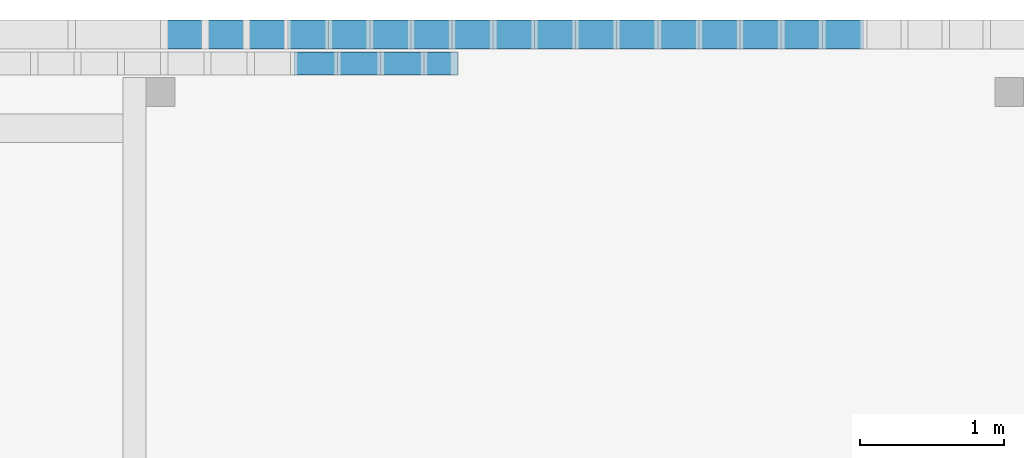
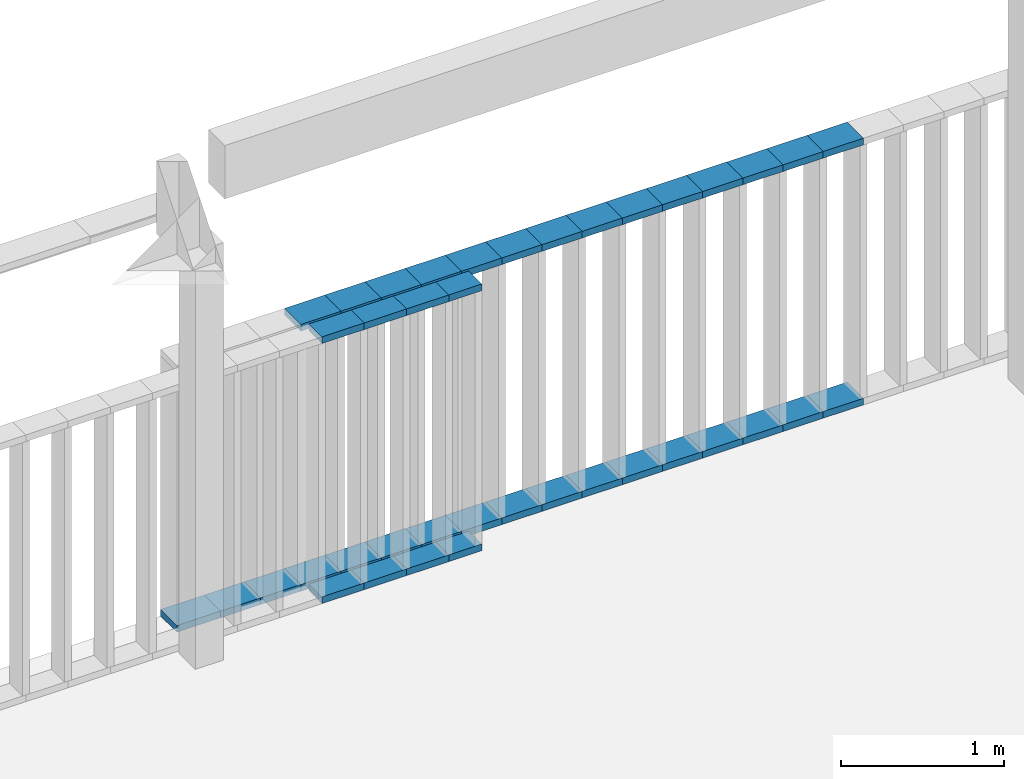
# One storey, part 48 of 240: 39 members, 2 elements without a shape of their own.
"""IFC2X3 building model written with IfcOpenShell, lengths in centimetres."""

from ifc_helpers import new_model, entity, si_unit, converted_unit, derived_unit, direction, frame, origin, origin_2d_with_axis, place, context, subcontext, project, spatial, rectangle, extrude, source, transform, mapped, material, type_object, type_shapes, element, aggregate, save


model = new_model("IFC2X3")

# Units and contexts
model_context = context("Model", 3, precision=0.001, world=origin(), true_north=direction((6.12303176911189e-17, 1.0)))
body_context = subcontext(model_context, "Body", "Model", "MODEL_VIEW")
ifc_project = project(units=[si_unit("LENGTHUNIT", "METRE", prefix="CENTI"), si_unit("AREAUNIT", "SQUARE_METRE"), si_unit("VOLUMEUNIT", "CUBIC_METRE"), converted_unit("PLANEANGLEUNIT", "DEGREE", entity("IfcRatioMeasure", 0.0174532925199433), si_unit("PLANEANGLEUNIT", "RADIAN"), dimensions=[0, 0, 0, 0, 0, 0, 0]), si_unit("MASSUNIT", "GRAM", prefix="KILO"), derived_unit("MASSDENSITYUNIT", [(si_unit("MASSUNIT", "GRAM", prefix="KILO"), 1), (si_unit("LENGTHUNIT", "METRE"), -3)]), si_unit("TIMEUNIT", "SECOND"), si_unit("FREQUENCYUNIT", "HERTZ"), si_unit("THERMODYNAMICTEMPERATUREUNIT", "DEGREE_CELSIUS"), derived_unit("THERMALTRANSMITTANCEUNIT", [(si_unit("MASSUNIT", "GRAM", prefix="KILO"), 1), (si_unit("THERMODYNAMICTEMPERATUREUNIT", "KELVIN"), -1), (si_unit("TIMEUNIT", "SECOND"), -3)]), derived_unit("VOLUMETRICFLOWRATEUNIT", [(si_unit("LENGTHUNIT", "METRE"), 3), (si_unit("TIMEUNIT", "SECOND"), -1)]), si_unit("ELECTRICCURRENTUNIT", "AMPERE"), si_unit("ELECTRICVOLTAGEUNIT", "VOLT"), si_unit("POWERUNIT", "WATT"), si_unit("FORCEUNIT", "NEWTON", prefix="KILO"), si_unit("ILLUMINANCEUNIT", "LUX"), si_unit("LUMINOUSFLUXUNIT", "LUMEN"), si_unit("LUMINOUSINTENSITYUNIT", "CANDELA"), derived_unit("USERDEFINED", [(si_unit("MASSUNIT", "GRAM", prefix="KILO"), -1), (si_unit("LENGTHUNIT", "METRE"), -2), (si_unit("TIMEUNIT", "SECOND"), 3), (si_unit("LUMINOUSFLUXUNIT", "LUMEN"), 1)]), derived_unit("LINEARVELOCITYUNIT", [(si_unit("LENGTHUNIT", "METRE"), 1), (si_unit("TIMEUNIT", "SECOND"), -1)]), si_unit("PRESSUREUNIT", "PASCAL"), derived_unit("USERDEFINED", [(si_unit("LENGTHUNIT", "METRE"), -2), (si_unit("MASSUNIT", "GRAM", prefix="KILO"), 1), (si_unit("TIMEUNIT", "SECOND"), -2)])], contexts=[model_context])

# Site, building, storey
site_placement = place(None, frame((-2781.94577612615, 7442.24238424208, 0.0)))
site = spatial("IfcSite", under=ifc_project, at=site_placement, Name="Default", CompositionType="ELEMENT")
building_placement = place(site_placement, origin())
building = spatial("IfcBuilding", under=site, at=building_placement, CompositionType="ELEMENT")
storey_placement = place(building_placement, origin())
storey = spatial("IfcBuildingStorey", under=building, at=storey_placement, Name="N00 - COO", CompositionType="ELEMENT", Elevation=0.0)

# Curtain wall, members
curtain_wall_type_1 = type_object("IfcCurtainWallType", Name="Mur-rideau:SR-Clôture", PredefinedType="NOTDEFINED")
curtain_wall_1_placement = place(building_placement, origin())
curtain_wall_1 = element("IfcCurtainWall", 1, at=curtain_wall_1_placement, inside=storey, type_object=curtain_wall_type_1, Name="Mur-rideau:SR-Clôture", ObjectType="Mur-rideau:SR-Clôture")
ifc_material = material(Name="Aluminium")
member_type_1 = type_object("IfcMemberType", Name="Epine nord (200x50 mm)", PredefinedType="MEMBER")
shared_shape_1 = source(origin(), body_context, "Body", "SweptSolid", [
    extrude(rectangle(XDim=20.0, YDim=5.0, at=origin_2d_with_axis()), frame((-2.5, 0.0, -28.5000000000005), z_axis=(0.0, 0.0, 1.0), x_axis=(0.0, -1.0, 0.0)), (0.0, 0.0, 1.0), 28.5000000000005),
])
type_shapes(member_type_1, [shared_shape_1])
member_1_placement = place(building_placement, frame((-3541.49987965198, 40.0, 200.0), z_axis=(1.0, 0.0, 0.0), x_axis=(0.0, 0.0, 1.0)))
member_1 = element("IfcMember", 2, at=member_1_placement, type_object=member_type_1, material=ifc_material, Name="Meneau rectangulaire:Epine nord (200x50 mm)", ObjectType="Meneau rectangulaire:Epine nord (200x50 mm)", context=body_context, shape_type="MappedRepresentation", body=[
    mapped(shared_shape_1, transform((0.0, 0.0, 0.0), scale=1.0)),
])
member_2_placement = place(building_placement, frame((-3512.99987965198, 40.0, 200.0), z_axis=(1.0, 0.0, 0.0), x_axis=(0.0, 0.0, 1.0)))
member_2 = element("IfcMember", 3, at=member_2_placement, type_object=member_type_1, material=ifc_material, Name="Meneau rectangulaire:Epine nord (200x50 mm)", ObjectType="Meneau rectangulaire:Epine nord (200x50 mm)", context=body_context, shape_type="MappedRepresentation", body=[
    mapped(shared_shape_1, transform((0.0, 0.0, 0.0), scale=1.0)),
])
member_3_placement = place(building_placement, frame((-3484.49987965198, 40.0, 200.0), z_axis=(1.0, 0.0, 0.0), x_axis=(0.0, 0.0, 1.0)))
member_3 = element("IfcMember", 4, at=member_3_placement, type_object=member_type_1, material=ifc_material, Name="Meneau rectangulaire:Epine nord (200x50 mm)", ObjectType="Meneau rectangulaire:Epine nord (200x50 mm)", context=body_context, shape_type="MappedRepresentation", body=[
    mapped(shared_shape_1, transform((0.0, 0.0, 0.0), scale=1.0)),
])
member_4_placement = place(building_placement, frame((-3455.99987965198, 40.0, 200.0), z_axis=(1.0, 0.0, 0.0), x_axis=(0.0, 0.0, 1.0)))
member_4 = element("IfcMember", 5, at=member_4_placement, type_object=member_type_1, material=ifc_material, Name="Meneau rectangulaire:Epine nord (200x50 mm)", ObjectType="Meneau rectangulaire:Epine nord (200x50 mm)", context=body_context, shape_type="MappedRepresentation", body=[
    mapped(shared_shape_1, transform((0.0, 0.0, 0.0), scale=1.0)),
])
member_5_placement = place(building_placement, frame((-3427.49987965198, 40.0, 200.0), z_axis=(1.0, 0.0, 0.0), x_axis=(0.0, 0.0, 1.0)))
member_5 = element("IfcMember", 6, at=member_5_placement, type_object=member_type_1, material=ifc_material, Name="Meneau rectangulaire:Epine nord (200x50 mm)", ObjectType="Meneau rectangulaire:Epine nord (200x50 mm)", context=body_context, shape_type="MappedRepresentation", body=[
    mapped(shared_shape_1, transform((0.0, 0.0, 0.0), scale=1.0)),
])
member_6_placement = place(building_placement, frame((-3398.99987965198, 40.0, 200.0), z_axis=(1.0, 0.0, 0.0), x_axis=(0.0, 0.0, 1.0)))
member_6 = element("IfcMember", 7, at=member_6_placement, type_object=member_type_1, material=ifc_material, Name="Meneau rectangulaire:Epine nord (200x50 mm)", ObjectType="Meneau rectangulaire:Epine nord (200x50 mm)", context=body_context, shape_type="MappedRepresentation", body=[
    mapped(shared_shape_1, transform((0.0, 0.0, 0.0), scale=1.0)),
])
member_7_placement = place(building_placement, frame((-3370.49987965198, 40.0, 200.0), z_axis=(1.0, 0.0, 0.0), x_axis=(0.0, 0.0, 1.0)))
member_7 = element("IfcMember", 8, at=member_7_placement, type_object=member_type_1, material=ifc_material, Name="Meneau rectangulaire:Epine nord (200x50 mm)", ObjectType="Meneau rectangulaire:Epine nord (200x50 mm)", context=body_context, shape_type="MappedRepresentation", body=[
    mapped(shared_shape_1, transform((0.0, 0.0, 0.0), scale=1.0)),
])
member_8_placement = place(building_placement, frame((-3341.99987965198, 40.0, 200.0), z_axis=(1.0, 0.0, 0.0), x_axis=(0.0, 0.0, 1.0)))
member_8 = element("IfcMember", 9, at=member_8_placement, type_object=member_type_1, material=ifc_material, Name="Meneau rectangulaire:Epine nord (200x50 mm)", ObjectType="Meneau rectangulaire:Epine nord (200x50 mm)", context=body_context, shape_type="MappedRepresentation", body=[
    mapped(shared_shape_1, transform((0.0, 0.0, 0.0), scale=1.0)),
])
member_9_placement = place(building_placement, frame((-3313.49987965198, 40.0, 200.0), z_axis=(1.0, 0.0, 0.0), x_axis=(0.0, 0.0, 1.0)))
member_9 = element("IfcMember", 10, at=member_9_placement, type_object=member_type_1, material=ifc_material, Name="Meneau rectangulaire:Epine nord (200x50 mm)", ObjectType="Meneau rectangulaire:Epine nord (200x50 mm)", context=body_context, shape_type="MappedRepresentation", body=[
    mapped(shared_shape_1, transform((0.0, 0.0, 0.0), scale=1.0)),
])
member_10_placement = place(building_placement, frame((-3284.99987965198, 40.0, 200.0), z_axis=(1.0, 0.0, 0.0), x_axis=(0.0, 0.0, 1.0)))
member_10 = element("IfcMember", 11, at=member_10_placement, type_object=member_type_1, material=ifc_material, Name="Meneau rectangulaire:Epine nord (200x50 mm)", ObjectType="Meneau rectangulaire:Epine nord (200x50 mm)", context=body_context, shape_type="MappedRepresentation", body=[
    mapped(shared_shape_1, transform((0.0, 0.0, 0.0), scale=1.0)),
])
member_11_placement = place(building_placement, frame((-3256.49987965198, 40.0, 200.0), z_axis=(1.0, 0.0, 0.0), x_axis=(0.0, 0.0, 1.0)))
member_11 = element("IfcMember", 12, at=member_11_placement, type_object=member_type_1, material=ifc_material, Name="Meneau rectangulaire:Epine nord (200x50 mm)", ObjectType="Meneau rectangulaire:Epine nord (200x50 mm)", context=body_context, shape_type="MappedRepresentation", body=[
    mapped(shared_shape_1, transform((0.0, 0.0, 0.0), scale=1.0)),
])
member_12_placement = place(building_placement, frame((-3227.99987965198, 40.0, 200.0), z_axis=(1.0, 0.0, 0.0), x_axis=(0.0, 0.0, 1.0)))
member_12 = element("IfcMember", 13, at=member_12_placement, type_object=member_type_1, material=ifc_material, Name="Meneau rectangulaire:Epine nord (200x50 mm)", ObjectType="Meneau rectangulaire:Epine nord (200x50 mm)", context=body_context, shape_type="MappedRepresentation", body=[
    mapped(shared_shape_1, transform((0.0, 0.0, 0.0), scale=1.0)),
])
member_13_placement = place(building_placement, frame((-3199.49987965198, 40.0, 200.0), z_axis=(1.0, 0.0, 0.0), x_axis=(0.0, 0.0, 1.0)))
member_13 = element("IfcMember", 14, at=member_13_placement, type_object=member_type_1, material=ifc_material, Name="Meneau rectangulaire:Epine nord (200x50 mm)", ObjectType="Meneau rectangulaire:Epine nord (200x50 mm)", context=body_context, shape_type="MappedRepresentation", body=[
    mapped(shared_shape_1, transform((0.0, 0.0, 0.0), scale=1.0)),
])
member_14_placement = place(building_placement, frame((-3170.99987965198, 40.0, 200.0), z_axis=(1.0, 0.0, 0.0), x_axis=(0.0, 0.0, 1.0)))
member_14 = element("IfcMember", 15, at=member_14_placement, type_object=member_type_1, material=ifc_material, Name="Meneau rectangulaire:Epine nord (200x50 mm)", ObjectType="Meneau rectangulaire:Epine nord (200x50 mm)", context=body_context, shape_type="MappedRepresentation", body=[
    mapped(shared_shape_1, transform((0.0, 0.0, 0.0), scale=1.0)),
])
member_type_2 = type_object("IfcMemberType", Name="Epine nord (200x50 mm)", PredefinedType="MEMBER")
shared_shape_2 = source(origin(), body_context, "Body", "SweptSolid", [
    extrude(rectangle(XDim=20.0, YDim=5.0, at=origin_2d_with_axis()), frame((-2.5, 0.0, -28.5000000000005), z_axis=(0.0, 0.0, 1.0), x_axis=(0.0, -1.0, 0.0)), (0.0, 0.0, 1.0), 28.5000000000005),
])
type_shapes(member_type_2, [shared_shape_2])
member_15_placement = place(building_placement, frame((-3626.99987965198, 40.0, 0.0), z_axis=(-1.0, 0.0, 0.0), x_axis=(0.0, 0.0, -1.0)))
member_15 = element("IfcMember", 16, at=member_15_placement, type_object=member_type_2, material=ifc_material, Name="Meneau rectangulaire:Epine nord (200x50 mm)", ObjectType="Meneau rectangulaire:Epine nord (200x50 mm)", context=body_context, shape_type="MappedRepresentation", body=[
    mapped(shared_shape_2, transform((0.0, 0.0, 0.0), scale=1.0)),
])
member_16_placement = place(building_placement, frame((-3598.49987965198, 40.0, 0.0), z_axis=(-1.0, 0.0, 0.0), x_axis=(0.0, 0.0, -1.0)))
member_16 = element("IfcMember", 17, at=member_16_placement, type_object=member_type_2, material=ifc_material, Name="Meneau rectangulaire:Epine nord (200x50 mm)", ObjectType="Meneau rectangulaire:Epine nord (200x50 mm)", context=body_context, shape_type="MappedRepresentation", body=[
    mapped(shared_shape_2, transform((0.0, 0.0, 0.0), scale=1.0)),
])
member_17_placement = place(building_placement, frame((-3569.99987965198, 40.0, 0.0), z_axis=(-1.0, 0.0, 0.0), x_axis=(0.0, 0.0, -1.0)))
member_17 = element("IfcMember", 18, at=member_17_placement, type_object=member_type_2, material=ifc_material, Name="Meneau rectangulaire:Epine nord (200x50 mm)", ObjectType="Meneau rectangulaire:Epine nord (200x50 mm)", context=body_context, shape_type="MappedRepresentation", body=[
    mapped(shared_shape_2, transform((0.0, 0.0, 0.0), scale=1.0)),
])
member_18_placement = place(building_placement, frame((-3541.49987965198, 40.0, 0.0), z_axis=(-1.0, 0.0, 0.0), x_axis=(0.0, 0.0, -1.0)))
member_18 = element("IfcMember", 19, at=member_18_placement, type_object=member_type_2, material=ifc_material, Name="Meneau rectangulaire:Epine nord (200x50 mm)", ObjectType="Meneau rectangulaire:Epine nord (200x50 mm)", context=body_context, shape_type="MappedRepresentation", body=[
    mapped(shared_shape_2, transform((0.0, 0.0, 0.0), scale=1.0)),
])
member_19_placement = place(building_placement, frame((-3512.99987965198, 40.0, 0.0), z_axis=(-1.0, 0.0, 0.0), x_axis=(0.0, 0.0, -1.0)))
member_19 = element("IfcMember", 20, at=member_19_placement, type_object=member_type_2, material=ifc_material, Name="Meneau rectangulaire:Epine nord (200x50 mm)", ObjectType="Meneau rectangulaire:Epine nord (200x50 mm)", context=body_context, shape_type="MappedRepresentation", body=[
    mapped(shared_shape_2, transform((0.0, 0.0, 0.0), scale=1.0)),
])
member_20_placement = place(building_placement, frame((-3484.49987965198, 40.0, 0.0), z_axis=(-1.0, 0.0, 0.0), x_axis=(0.0, 0.0, -1.0)))
member_20 = element("IfcMember", 21, at=member_20_placement, type_object=member_type_2, material=ifc_material, Name="Meneau rectangulaire:Epine nord (200x50 mm)", ObjectType="Meneau rectangulaire:Epine nord (200x50 mm)", context=body_context, shape_type="MappedRepresentation", body=[
    mapped(shared_shape_2, transform((0.0, 0.0, 0.0), scale=1.0)),
])
member_21_placement = place(building_placement, frame((-3455.99987965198, 40.0, 0.0), z_axis=(-1.0, 0.0, 0.0), x_axis=(0.0, 0.0, -1.0)))
member_21 = element("IfcMember", 22, at=member_21_placement, type_object=member_type_2, material=ifc_material, Name="Meneau rectangulaire:Epine nord (200x50 mm)", ObjectType="Meneau rectangulaire:Epine nord (200x50 mm)", context=body_context, shape_type="MappedRepresentation", body=[
    mapped(shared_shape_2, transform((0.0, 0.0, 0.0), scale=1.0)),
])
member_22_placement = place(building_placement, frame((-3427.49987965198, 40.0, 0.0), z_axis=(-1.0, 0.0, 0.0), x_axis=(0.0, 0.0, -1.0)))
member_22 = element("IfcMember", 23, at=member_22_placement, type_object=member_type_2, material=ifc_material, Name="Meneau rectangulaire:Epine nord (200x50 mm)", ObjectType="Meneau rectangulaire:Epine nord (200x50 mm)", context=body_context, shape_type="MappedRepresentation", body=[
    mapped(shared_shape_2, transform((0.0, 0.0, 0.0), scale=1.0)),
])
member_23_placement = place(building_placement, frame((-3398.99987965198, 40.0, 0.0), z_axis=(-1.0, 0.0, 0.0), x_axis=(0.0, 0.0, -1.0)))
member_23 = element("IfcMember", 24, at=member_23_placement, type_object=member_type_2, material=ifc_material, Name="Meneau rectangulaire:Epine nord (200x50 mm)", ObjectType="Meneau rectangulaire:Epine nord (200x50 mm)", context=body_context, shape_type="MappedRepresentation", body=[
    mapped(shared_shape_2, transform((0.0, 0.0, 0.0), scale=1.0)),
])
member_24_placement = place(building_placement, frame((-3370.49987965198, 40.0, 0.0), z_axis=(-1.0, 0.0, 0.0), x_axis=(0.0, 0.0, -1.0)))
member_24 = element("IfcMember", 25, at=member_24_placement, type_object=member_type_2, material=ifc_material, Name="Meneau rectangulaire:Epine nord (200x50 mm)", ObjectType="Meneau rectangulaire:Epine nord (200x50 mm)", context=body_context, shape_type="MappedRepresentation", body=[
    mapped(shared_shape_2, transform((0.0, 0.0, 0.0), scale=1.0)),
])
member_25_placement = place(building_placement, frame((-3341.99987965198, 40.0, 0.0), z_axis=(-1.0, 0.0, 0.0), x_axis=(0.0, 0.0, -1.0)))
member_25 = element("IfcMember", 26, at=member_25_placement, type_object=member_type_2, material=ifc_material, Name="Meneau rectangulaire:Epine nord (200x50 mm)", ObjectType="Meneau rectangulaire:Epine nord (200x50 mm)", context=body_context, shape_type="MappedRepresentation", body=[
    mapped(shared_shape_2, transform((0.0, 0.0, 0.0), scale=1.0)),
])
member_26_placement = place(building_placement, frame((-3313.49987965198, 40.0, 0.0), z_axis=(-1.0, 0.0, 0.0), x_axis=(0.0, 0.0, -1.0)))
member_26 = element("IfcMember", 27, at=member_26_placement, type_object=member_type_2, material=ifc_material, Name="Meneau rectangulaire:Epine nord (200x50 mm)", ObjectType="Meneau rectangulaire:Epine nord (200x50 mm)", context=body_context, shape_type="MappedRepresentation", body=[
    mapped(shared_shape_2, transform((0.0, 0.0, 0.0), scale=1.0)),
])
member_27_placement = place(building_placement, frame((-3284.99987965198, 40.0, 0.0), z_axis=(-1.0, 0.0, 0.0), x_axis=(0.0, 0.0, -1.0)))
member_27 = element("IfcMember", 28, at=member_27_placement, type_object=member_type_2, material=ifc_material, Name="Meneau rectangulaire:Epine nord (200x50 mm)", ObjectType="Meneau rectangulaire:Epine nord (200x50 mm)", context=body_context, shape_type="MappedRepresentation", body=[
    mapped(shared_shape_2, transform((0.0, 0.0, 0.0), scale=1.0)),
])
member_28_placement = place(building_placement, frame((-3256.49987965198, 40.0, 0.0), z_axis=(-1.0, 0.0, 0.0), x_axis=(0.0, 0.0, -1.0)))
member_28 = element("IfcMember", 29, at=member_28_placement, type_object=member_type_2, material=ifc_material, Name="Meneau rectangulaire:Epine nord (200x50 mm)", ObjectType="Meneau rectangulaire:Epine nord (200x50 mm)", context=body_context, shape_type="MappedRepresentation", body=[
    mapped(shared_shape_2, transform((0.0, 0.0, 0.0), scale=1.0)),
])
member_29_placement = place(building_placement, frame((-3227.99987965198, 40.0, 0.0), z_axis=(-1.0, 0.0, 0.0), x_axis=(0.0, 0.0, -1.0)))
member_29 = element("IfcMember", 30, at=member_29_placement, type_object=member_type_2, material=ifc_material, Name="Meneau rectangulaire:Epine nord (200x50 mm)", ObjectType="Meneau rectangulaire:Epine nord (200x50 mm)", context=body_context, shape_type="MappedRepresentation", body=[
    mapped(shared_shape_2, transform((0.0, 0.0, 0.0), scale=1.0)),
])
member_30_placement = place(building_placement, frame((-3199.49987965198, 40.0, 0.0), z_axis=(-1.0, 0.0, 0.0), x_axis=(0.0, 0.0, -1.0)))
member_30 = element("IfcMember", 31, at=member_30_placement, type_object=member_type_2, material=ifc_material, Name="Meneau rectangulaire:Epine nord (200x50 mm)", ObjectType="Meneau rectangulaire:Epine nord (200x50 mm)", context=body_context, shape_type="MappedRepresentation", body=[
    mapped(shared_shape_2, transform((0.0, 0.0, 0.0), scale=1.0)),
])
member_type_3 = type_object("IfcMemberType", Name="Epine nord (200x50 mm)", PredefinedType="MEMBER")
shared_shape_3 = source(origin(), body_context, "Body", "SweptSolid", [
    extrude(rectangle(XDim=20.0, YDim=5.0, at=origin_2d_with_axis()), frame((-2.5, 0.0, -31.0), z_axis=(0.0, 0.0, 1.0), x_axis=(0.0, -1.0, 0.0)), (0.0, 0.0, 1.0), 31.0000000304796),
])
type_shapes(member_type_3, [shared_shape_3])
member_31_placement = place(building_placement, frame((-3657.99987968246, 40.0, 0.0), z_axis=(-1.0, 0.0, 0.0), x_axis=(0.0, 0.0, -1.0)))
member_31 = element("IfcMember", 32, at=member_31_placement, type_object=member_type_3, material=ifc_material, Name="Meneau rectangulaire:Epine nord (200x50 mm)", ObjectType="Meneau rectangulaire:Epine nord (200x50 mm)", context=body_context, shape_type="MappedRepresentation", body=[
    mapped(shared_shape_3, transform((0.0, 0.0, 0.0), scale=1.0)),
])
aggregate(curtain_wall_1, [member_1, member_2, member_3, member_4, member_5, member_6, member_7, member_8, member_9, member_10, member_11, member_12, member_13, member_14, member_31, member_15, member_16, member_17, member_18, member_19, member_20, member_21, member_22, member_23, member_24, member_25, member_26, member_27, member_28, member_29, member_30])

curtain_wall_type_2 = type_object("IfcCurtainWallType", Name="Mur-SR", PredefinedType="NOTDEFINED")
curtain_wall_2_placement = place(storey_placement, origin())
curtain_wall_2 = element("IfcCurtainWall", 33, at=curtain_wall_2_placement, inside=storey, type_object=curtain_wall_type_2, Name="Mur-SR", ObjectType="Mur-SR")
member_type_4 = type_object("IfcMemberType", Name="Epine nord (160x50 mm)", PredefinedType="MEMBER")
shared_shape_4 = source(origin(), body_context, "Body", "SweptSolid", [
    extrude(rectangle(XDim=16.0, YDim=5.0, at=origin_2d_with_axis()), frame((-2.5, 0.0, -30.0), z_axis=(0.0, 0.0, 1.0), x_axis=(0.0, -1.0, 0.0)), (0.0, 0.0, 1.0), 30.0000000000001),
])
type_shapes(member_type_4, [shared_shape_4])
member_32_placement = place(storey_placement, frame((-3535.49987968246, 20.0, 200.0), z_axis=(1.0, 0.0, 0.0), x_axis=(0.0, 0.0, 1.0)))
member_32 = element("IfcMember", 34, at=member_32_placement, type_object=member_type_4, material=ifc_material, Name="Meneau rectangulaire:Epine nord (160x50 mm)", ObjectType="Meneau rectangulaire:Epine nord (160x50 mm)", context=body_context, shape_type="MappedRepresentation", body=[
    mapped(shared_shape_4, transform((0.0, 0.0, 0.0), scale=1.0)),
])
member_33_placement = place(storey_placement, frame((-3505.49987968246, 20.0, 200.0), z_axis=(1.0, 0.0, 0.0), x_axis=(0.0, 0.0, 1.0)))
member_33 = element("IfcMember", 35, at=member_33_placement, type_object=member_type_4, material=ifc_material, Name="Meneau rectangulaire:Epine nord (160x50 mm)", ObjectType="Meneau rectangulaire:Epine nord (160x50 mm)", context=body_context, shape_type="MappedRepresentation", body=[
    mapped(shared_shape_4, transform((0.0, 0.0, 0.0), scale=1.0)),
])
member_34_placement = place(storey_placement, frame((-3475.49987968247, 20.0, 200.0), z_axis=(1.0, 0.0, 0.0), x_axis=(0.0, 0.0, 1.0)))
member_34 = element("IfcMember", 36, at=member_34_placement, type_object=member_type_4, material=ifc_material, Name="Meneau rectangulaire:Epine nord (160x50 mm)", ObjectType="Meneau rectangulaire:Epine nord (160x50 mm)", context=body_context, shape_type="MappedRepresentation", body=[
    mapped(shared_shape_4, transform((0.0, 0.0, 0.0), scale=1.0)),
])
member_type_5 = type_object("IfcMemberType", Name="Epine nord (160x50 mm)", PredefinedType="MEMBER")
shared_shape_5 = source(origin(), body_context, "Body", "SweptSolid", [
    extrude(rectangle(XDim=16.0, YDim=5.0, at=origin_2d_with_axis()), frame((-2.5, 0.0, -30.0), z_axis=(0.0, 0.0, 1.0), x_axis=(0.0, -1.0, 0.0)), (0.0, 0.0, 1.0), 30.0000000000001),
])
type_shapes(member_type_5, [shared_shape_5])
member_35_placement = place(storey_placement, frame((-3565.49987968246, 20.0, 0.0), z_axis=(-1.0, 0.0, 0.0), x_axis=(0.0, 0.0, -1.0)))
member_35 = element("IfcMember", 37, at=member_35_placement, type_object=member_type_5, material=ifc_material, Name="Meneau rectangulaire:Epine nord (160x50 mm)", ObjectType="Meneau rectangulaire:Epine nord (160x50 mm)", context=body_context, shape_type="MappedRepresentation", body=[
    mapped(shared_shape_5, transform((0.0, 0.0, 0.0), scale=1.0)),
])
member_36_placement = place(storey_placement, frame((-3535.49987968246, 20.0, 0.0), z_axis=(-1.0, 0.0, 0.0), x_axis=(0.0, 0.0, -1.0)))
member_36 = element("IfcMember", 38, at=member_36_placement, type_object=member_type_5, material=ifc_material, Name="Meneau rectangulaire:Epine nord (160x50 mm)", ObjectType="Meneau rectangulaire:Epine nord (160x50 mm)", context=body_context, shape_type="MappedRepresentation", body=[
    mapped(shared_shape_5, transform((0.0, 0.0, 0.0), scale=1.0)),
])
member_37_placement = place(storey_placement, frame((-3505.49987968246, 20.0, 0.0), z_axis=(-1.0, 0.0, 0.0), x_axis=(0.0, 0.0, -1.0)))
member_37 = element("IfcMember", 39, at=member_37_placement, type_object=member_type_5, material=ifc_material, Name="Meneau rectangulaire:Epine nord (160x50 mm)", ObjectType="Meneau rectangulaire:Epine nord (160x50 mm)", context=body_context, shape_type="MappedRepresentation", body=[
    mapped(shared_shape_5, transform((0.0, 0.0, 0.0), scale=1.0)),
])
member_type_6 = type_object("IfcMemberType", Name="Epine nord (160x50 mm)", PredefinedType="MEMBER")
shared_shape_6 = source(origin(), body_context, "Body", "SweptSolid", [
    extrude(rectangle(XDim=16.0, YDim=5.0, at=origin_2d_with_axis()), frame((-2.5, 0.0, -23.4999999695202), z_axis=(0.0, 0.0, 1.0), x_axis=(0.0, -1.0, 0.0)), (0.0, 0.0, 1.0), 23.4999999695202),
])
type_shapes(member_type_6, [shared_shape_6])
member_38_placement = place(storey_placement, frame((-3451.99987971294, 20.0, 200.0), z_axis=(1.0, 0.0, 0.0), x_axis=(0.0, 0.0, 1.0)))
member_38 = element("IfcMember", 40, at=member_38_placement, type_object=member_type_6, material=ifc_material, Name="Meneau rectangulaire:Epine nord (160x50 mm)", ObjectType="Meneau rectangulaire:Epine nord (160x50 mm)", context=body_context, shape_type="MappedRepresentation", body=[
    mapped(shared_shape_6, transform((0.0, 0.0, 0.0), scale=1.0)),
])
member_type_7 = type_object("IfcMemberType", Name="Epine nord (160x50 mm)", PredefinedType="MEMBER")
shared_shape_7 = source(origin(), body_context, "Body", "SweptSolid", [
    extrude(rectangle(XDim=16.0, YDim=5.0, at=origin_2d_with_axis()), frame((-2.5, 0.0, -23.4999999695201), z_axis=(0.0, 0.0, 1.0), x_axis=(0.0, -1.0, 0.0)), (0.0, 0.0, 1.0), 23.4999999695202),
])
type_shapes(member_type_7, [shared_shape_7])
member_39_placement = place(storey_placement, frame((-3475.49987968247, 20.0, 0.0), z_axis=(-1.0, 0.0, 0.0), x_axis=(0.0, 0.0, -1.0)))
member_39 = element("IfcMember", 41, at=member_39_placement, type_object=member_type_7, material=ifc_material, Name="Meneau rectangulaire:Epine nord (160x50 mm)", ObjectType="Meneau rectangulaire:Epine nord (160x50 mm)", context=body_context, shape_type="MappedRepresentation", body=[
    mapped(shared_shape_7, transform((0.0, 0.0, 0.0), scale=1.0)),
])
aggregate(curtain_wall_2, [member_38, member_35, member_36, member_37, member_39, member_32, member_33, member_34])

save(model, "model.ifc")
